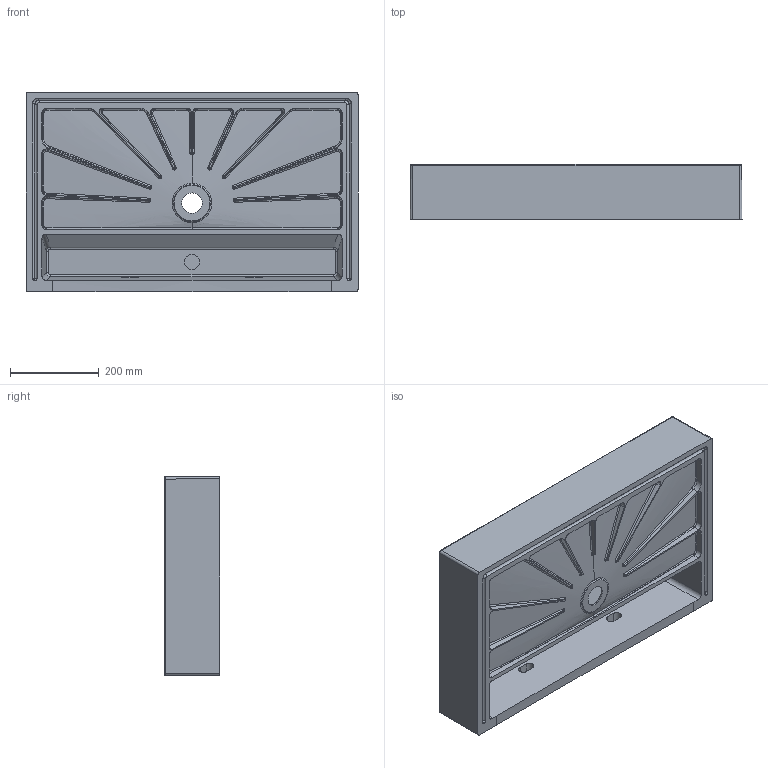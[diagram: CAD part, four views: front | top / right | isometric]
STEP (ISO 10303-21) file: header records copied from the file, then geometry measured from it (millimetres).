
FILE_DESCRIPTION (( 'STEP AP203' ), '1' );
FILE_NAME ('EQA75.STEP', '2017-03-06T17:03:06', ( '' ), ( '' ), 'SwSTEP 2.0', 'SolidWorks 2017', '' );
FILE_SCHEMA (( 'CONFIG_CONTROL_DESIGN' ));
Length unit declared in the file: millimetre
Products named in the file (1): EQA75
Bounding box: 750 x 125 x 450 mm (x, y, z)
Volume: 11785352.5 mm3; surface area: 1310614.1 mm2
Topology: 1 solids, 1 shells, 270 faces, 674 edges, 402 vertices
Faces by surface type: bspline 114, cylinder 76, plane 64, sphere 8, torus 6, cone 2
Full cylindrical faces by diameter (mm): 35 x1
Entity records: 22558 total; most frequent: CARTESIAN_POINT 17122, ORIENTED_EDGE 1318, DIRECTION 861, EDGE_CURVE 659, VERTEX_POINT 400, AXIS2_PLACEMENT_3D 326, EDGE_LOOP 285, FACE_OUTER_BOUND 273
